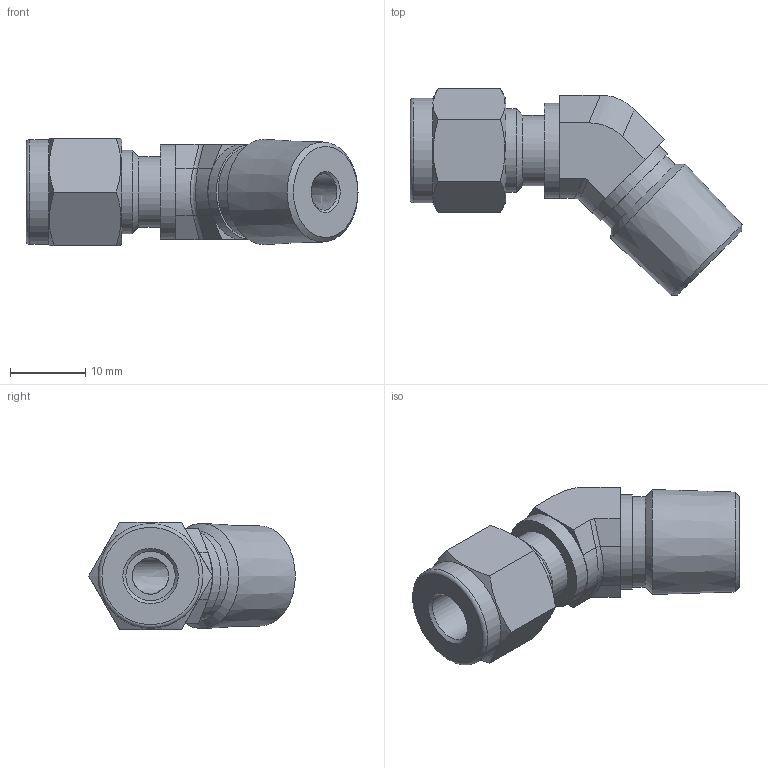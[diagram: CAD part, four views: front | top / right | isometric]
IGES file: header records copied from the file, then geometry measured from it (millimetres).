
Global section: file name: No Iges File Name specified; native system: Autodesk Inventor 2012; preprocessor: AutoDesk Inventor Iges Exporter R2012; author: 硅己绕,, ; organization: 11; date: 20150603.091827; units: millimetre
Bounding box: 44.05 x 27.41 x 14.2 mm (x, y, z)
Volume: 5318 mm3; surface area: 3160.1 mm2
Topology: 1 solids, 1 shells, 50 faces, 109 edges, 68 vertices
Faces by surface type: plane 25, cylinder 10, revolution 7, cone 6, bspline 1, torus 1
Full cylindrical faces by diameter (mm): 9.3 x1, 11.112 x1, 12 x1, 12.6 x1, 12.605 x1, 13.9 x1
